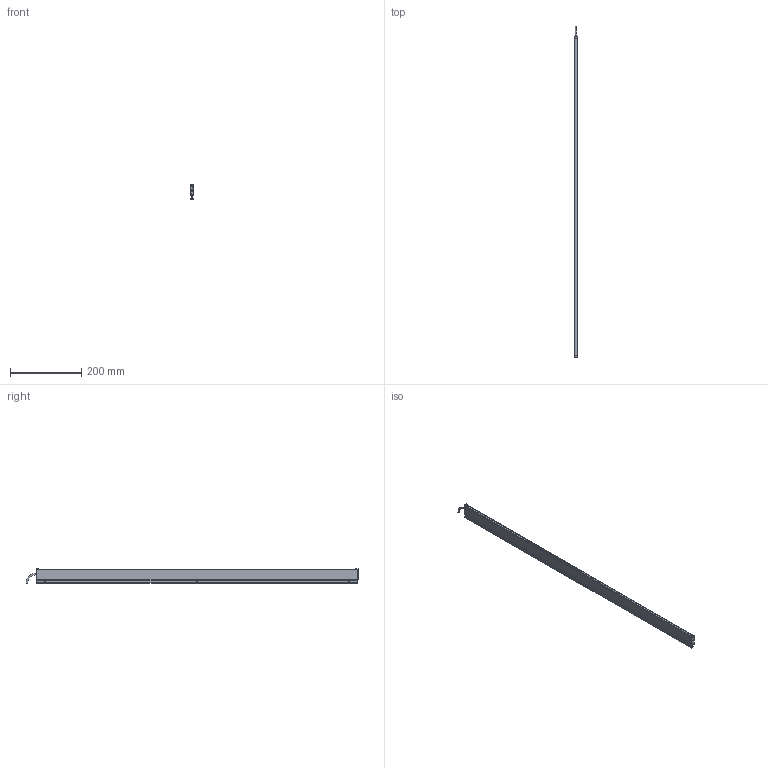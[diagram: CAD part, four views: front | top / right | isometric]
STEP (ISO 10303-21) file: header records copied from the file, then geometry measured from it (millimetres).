
FILE_DESCRIPTION (( 'STEP AP214' ), '1' );
FILE_NAME ('ILG-L-K1-0905mm.STEP', '2017-07-11T07:06:56', ( '' ), ( '' ), 'SwSTEP 2.0', 'SolidWorks 2016', '' );
FILE_SCHEMA (( 'AUTOMOTIVE_DESIGN' ));
Length unit declared in the file: millimetre
Products named in the file (1): ILG-L-K1-0905mm
Bounding box: 9 x 933.25 x 40.71 mm (x, y, z)
Volume: 129309.1 mm3; surface area: 179536.8 mm2
Topology: 9 solids, 9 shells, 430 faces, 1108 edges, 698 vertices
Faces by surface type: plane 205, cylinder 151, cone 64, torus 10
Entity records: 17910 total; most frequent: CARTESIAN_POINT 2385, DIRECTION 2328, ORIENTED_EDGE 2200, EDGE_CURVE 1100, AXIS2_PLACEMENT_3D 849, VERTEX_POINT 698, LINE 630, VECTOR 630
